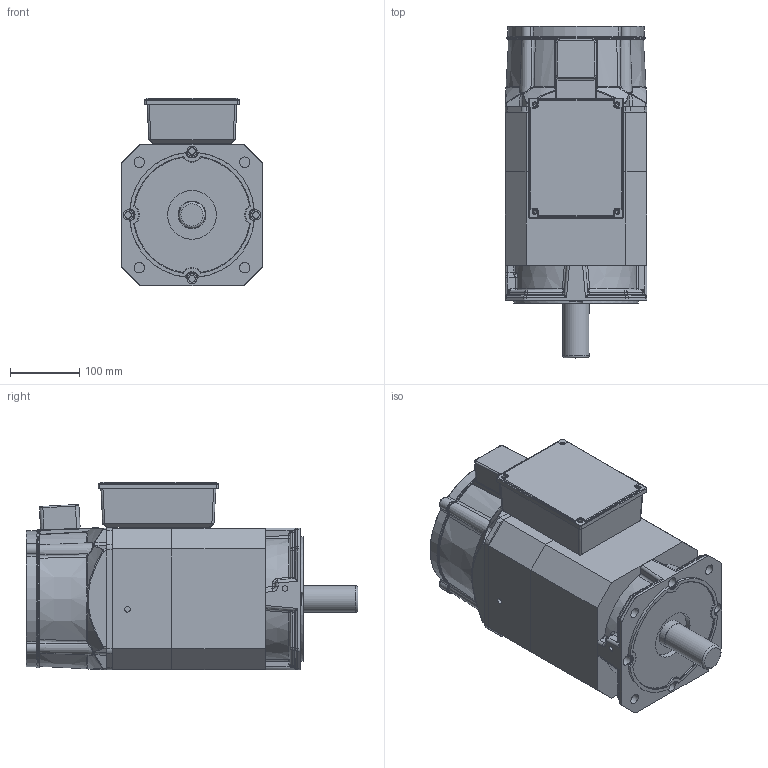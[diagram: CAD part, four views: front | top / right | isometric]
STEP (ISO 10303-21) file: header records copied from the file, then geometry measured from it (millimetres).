
FILE_DESCRIPTION(/* description */ (''),/* implementation_level */ '2;1');
FILE_NAME(/* name */ '204ZJY-4-3.7-15.stp',/* time_stamp */ '2024-01-15T15:22:20+08:00',/* author */ (''),/* organization */ (''),/* preprocessor_version */ 'ST-DEVELOPER v18.1',/* originating_system */ 'SIEMENS PLM Software NX 2000',/* authorisation */ '');
FILE_SCHEMA (('FEATURE_BASED_PROCESS_PLANNING'));
Products named in the file (1): 204ZJY-4-2.2-15电机外形图
Bounding box: 204 x 478 x 270 mm (x, y, z)
Volume: 10343016.5 mm3; surface area: 987697.6 mm2
Topology: 9 solids, 9 shells, 1868 faces, 4653 edges, 2763 vertices
Faces by surface type: cylinder 743, torus 447, plane 355, bspline 248, cone 63, sphere 12
Full cylindrical faces by diameter (mm): 4 x10, 5 x10, 6 x10, 6.5 x4, 7 x8, 7.5 x4, 8 x4, 9.5 x8, 11 x8, 13.5 x2, 14.5 x4, 15 x5, 28 x1, 38 x1, 39.8 x1, 40 x1, 70 x1, 187 x1
Entity records: 61916 total; most frequent: CARTESIAN_POINT 21933, ORIENTED_EDGE 8866, DIRECTION 7419, EDGE_CURVE 4433, AXIS2_PLACEMENT_3D 3126, VERTEX_POINT 2704, EDGE_LOOP 2121, ADVANCED_FACE 1868
